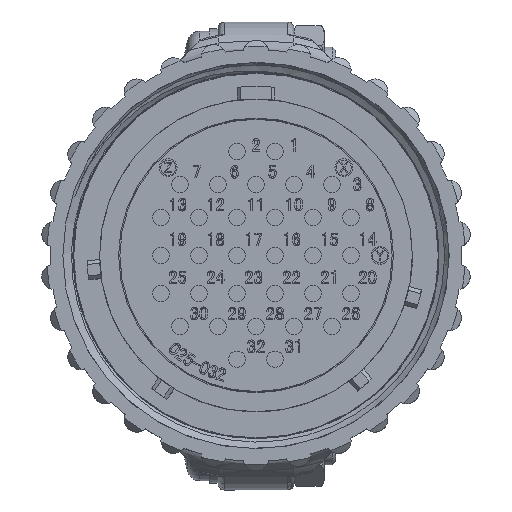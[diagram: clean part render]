
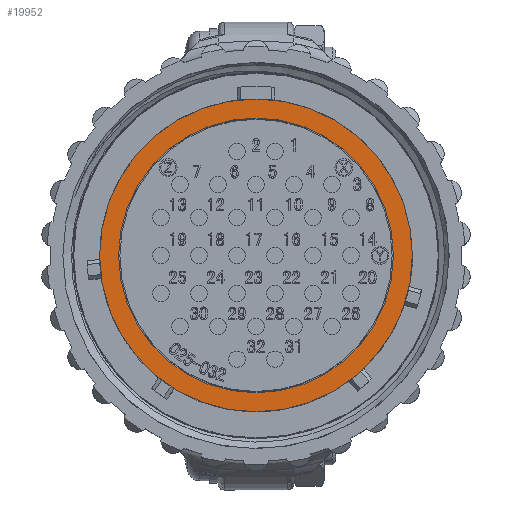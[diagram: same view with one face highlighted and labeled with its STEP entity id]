
A CAD part, top view. The second image highlights one B-rep face of the part: STEP entity #19952.
In plain terms, the highlighted planar face has unit normal (0, 0, 1).
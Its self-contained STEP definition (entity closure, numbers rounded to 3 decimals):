
#5812 = CIRCLE ( 'NONE', #102449, 10.85 ) ;
#10336 = EDGE_LOOP ( 'NONE', ( #107082 ) ) ;
#15194 = DIRECTION ( 'NONE',  ( 1., 0., 0. ) ) ;
#19952 = ADVANCED_FACE ( 'NONE', ( #55986, #100352 ), #98575, .T. ) ;
#33257 = DIRECTION ( 'NONE',  ( 0., 0., 1. ) ) ;
#33600 = AXIS2_PLACEMENT_3D ( 'NONE', #49201, #113145, #136017 ) ;
#36325 = EDGE_LOOP ( 'NONE', ( #114220 ) ) ;
#49201 = CARTESIAN_POINT ( 'NONE',  ( 0., 0., 0. ) ) ;
#49255 = VERTEX_POINT ( 'NONE', #69111 ) ;
#55986 = FACE_BOUND ( 'NONE', #36325, .T. ) ;
#58522 = EDGE_CURVE ( 'NONE', #71587, #71587, #5812, .T. ) ;
#60195 = CIRCLE ( 'NONE', #33600, 12.35 ) ;
#67211 = CARTESIAN_POINT ( 'NONE',  ( 10.85, 0., 0. ) ) ;
#69111 = CARTESIAN_POINT ( 'NONE',  ( 12.35, 0., 0. ) ) ;
#70144 = AXIS2_PLACEMENT_3D ( 'NONE', #77594, #33257, #112419 ) ;
#71587 = VERTEX_POINT ( 'NONE', #67211 ) ;
#77594 = CARTESIAN_POINT ( 'NONE',  ( 0., 0., 0. ) ) ;
#98575 = PLANE ( 'NONE',  #70144 ) ;
#100352 = FACE_OUTER_BOUND ( 'NONE', #10336, .T. ) ;
#102449 = AXIS2_PLACEMENT_3D ( 'NONE', #112499, #112033, #15194 ) ;
#107082 = ORIENTED_EDGE ( 'NONE', *, *, #121506, .T. ) ;
#112033 = DIRECTION ( 'NONE',  ( 0., 0., 1. ) ) ;
#112419 = DIRECTION ( 'NONE',  ( 1., 0., 0. ) ) ;
#112499 = CARTESIAN_POINT ( 'NONE',  ( 0., 0., 0. ) ) ;
#113145 = DIRECTION ( 'NONE',  ( 0., 0., 1. ) ) ;
#114220 = ORIENTED_EDGE ( 'NONE', *, *, #58522, .F. ) ;
#121506 = EDGE_CURVE ( 'NONE', #49255, #49255, #60195, .T. ) ;
#136017 = DIRECTION ( 'NONE',  ( 1., 0., 0. ) ) ;
